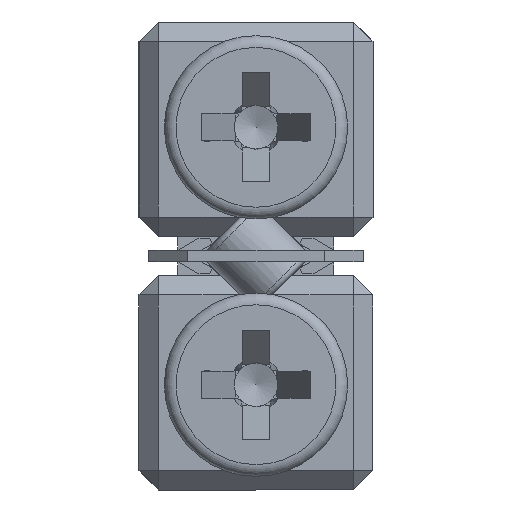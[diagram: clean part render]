
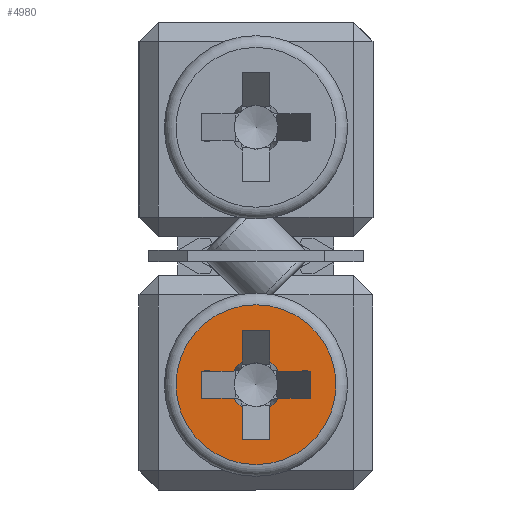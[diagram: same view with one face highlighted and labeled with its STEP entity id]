
A CAD part, left-side view. The second image highlights one B-rep face of the part: STEP entity #4980.
In plain terms, the highlighted planar face has unit normal (-1, 0, 0).
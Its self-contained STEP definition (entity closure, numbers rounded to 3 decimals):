
#151 = DIRECTION ( 'NONE',  ( 0., -1., 0. ) ) ;
#282 = FACE_OUTER_BOUND ( 'NONE', #6431, .T. ) ;
#322 = CARTESIAN_POINT ( 'NONE',  ( -54., 0., 2.7 ) ) ;
#386 = ORIENTED_EDGE ( 'NONE', *, *, #3901, .T. ) ;
#389 = VERTEX_POINT ( 'NONE', #10544 ) ;
#474 = ORIENTED_EDGE ( 'NONE', *, *, #10109, .F. ) ;
#523 = CIRCLE ( 'NONE', #12427, 0.678 ) ;
#816 = EDGE_CURVE ( 'NONE', #7248, #5158, #13938, .T. ) ;
#974 = LINE ( 'NONE', #11450, #9322 ) ;
#1057 = DIRECTION ( 'NONE',  ( -1., 0., 0. ) ) ;
#1335 = DIRECTION ( 'NONE',  ( 0., 0., 1. ) ) ;
#1416 = ORIENTED_EDGE ( 'NONE', *, *, #8297, .T. ) ;
#1425 = VERTEX_POINT ( 'NONE', #6885 ) ;
#1532 = DIRECTION ( 'NONE',  ( 1., 0., 0. ) ) ;
#1585 = DIRECTION ( 'NONE',  ( 0., 1., 0. ) ) ;
#1810 = ORIENTED_EDGE ( 'NONE', *, *, #9512, .T. ) ;
#1886 = CARTESIAN_POINT ( 'NONE',  ( -54., -0.35, 4.1 ) ) ;
#1962 = CARTESIAN_POINT ( 'NONE',  ( -54., 0.35, 2.119 ) ) ;
#2075 = VECTOR ( 'NONE', #3684, 1000. ) ;
#2076 = CARTESIAN_POINT ( 'NONE',  ( -54., -0.581, 2.35 ) ) ;
#2332 = VERTEX_POINT ( 'NONE', #7053 ) ;
#2337 = ORIENTED_EDGE ( 'NONE', *, *, #10279, .F. ) ;
#2516 = VECTOR ( 'NONE', #11118, 1000. ) ;
#2609 = DIRECTION ( 'NONE',  ( 0., -1., 0. ) ) ;
#2748 = DIRECTION ( 'NONE',  ( -1., 0., 0. ) ) ;
#2983 = CARTESIAN_POINT ( 'NONE',  ( -54., -1.4, 2.35 ) ) ;
#3027 = EDGE_CURVE ( 'NONE', #13841, #1425, #14010, .T. ) ;
#3286 = VECTOR ( 'NONE', #12839, 1000. ) ;
#3399 = VERTEX_POINT ( 'NONE', #13761 ) ;
#3571 = CARTESIAN_POINT ( 'NONE',  ( -54., 0.35, 1.3 ) ) ;
#3605 = LINE ( 'NONE', #3908, #2075 ) ;
#3640 = ORIENTED_EDGE ( 'NONE', *, *, #11639, .T. ) ;
#3684 = DIRECTION ( 'NONE',  ( 0., 0., -1. ) ) ;
#3686 = DIRECTION ( 'NONE',  ( 0., 0., 1. ) ) ;
#3760 = VERTEX_POINT ( 'NONE', #6831 ) ;
#3843 = VERTEX_POINT ( 'NONE', #1962 ) ;
#3901 = EDGE_CURVE ( 'NONE', #12799, #6830, #13260, .T. ) ;
#3908 = CARTESIAN_POINT ( 'NONE',  ( -54., 1.4, 3.05 ) ) ;
#4115 = DIRECTION ( 'NONE',  ( -1., 0., 0. ) ) ;
#4233 = EDGE_CURVE ( 'NONE', #5847, #5389, #6097, .T. ) ;
#4402 = CARTESIAN_POINT ( 'NONE',  ( -54., 0., 2.7 ) ) ;
#4425 = CARTESIAN_POINT ( 'NONE',  ( -54., -1.4, 2.35 ) ) ;
#4473 = DIRECTION ( 'NONE',  ( 0., -1., 0. ) ) ;
#4705 = CARTESIAN_POINT ( 'NONE',  ( -54., 0., 2.7 ) ) ;
#4777 = AXIS2_PLACEMENT_3D ( 'NONE', #322, #14356, #1335 ) ;
#4980 = ADVANCED_FACE ( 'NONE', ( #282, #12003 ), #9761, .F. ) ;
#5038 = CARTESIAN_POINT ( 'NONE',  ( -54., 2.35, 2.7 ) ) ;
#5158 = VERTEX_POINT ( 'NONE', #2076 ) ;
#5389 = VERTEX_POINT ( 'NONE', #13225 ) ;
#5520 = DIRECTION ( 'NONE',  ( 0., 1., 0. ) ) ;
#5656 = ORIENTED_EDGE ( 'NONE', *, *, #3027, .F. ) ;
#5847 = VERTEX_POINT ( 'NONE', #7387 ) ;
#5908 = CARTESIAN_POINT ( 'NONE',  ( -54., -0.35, 2.119 ) ) ;
#6011 = ORIENTED_EDGE ( 'NONE', *, *, #6332, .F. ) ;
#6097 = LINE ( 'NONE', #7180, #7513 ) ;
#6259 = EDGE_LOOP ( 'NONE', ( #10247, #13796, #14734, #3640, #6011, #7543, #8136, #386, #7610, #8296, #5656, #11377, #474, #1416, #2337, #1810 ) ) ;
#6332 = EDGE_CURVE ( 'NONE', #13261, #3843, #10140, .T. ) ;
#6390 = LINE ( 'NONE', #9953, #2516 ) ;
#6431 = EDGE_LOOP ( 'NONE', ( #6879 ) ) ;
#6613 = DIRECTION ( 'NONE',  ( 0., 0., -1. ) ) ;
#6726 = VECTOR ( 'NONE', #8288, 1000. ) ;
#6830 = VERTEX_POINT ( 'NONE', #9412 ) ;
#6831 = CARTESIAN_POINT ( 'NONE',  ( -54., -0.35, 3.281 ) ) ;
#6879 = ORIENTED_EDGE ( 'NONE', *, *, #11073, .T. ) ;
#6885 = CARTESIAN_POINT ( 'NONE',  ( -54., 0.35, 4.1 ) ) ;
#7053 = CARTESIAN_POINT ( 'NONE',  ( -54., 0., 0.65 ) ) ;
#7180 = CARTESIAN_POINT ( 'NONE',  ( -54., 0.35, 1.3 ) ) ;
#7248 = VERTEX_POINT ( 'NONE', #5908 ) ;
#7387 = CARTESIAN_POINT ( 'NONE',  ( -54., 0.35, 1.3 ) ) ;
#7488 = CIRCLE ( 'NONE', #8221, 2.05 ) ;
#7513 = VECTOR ( 'NONE', #2609, 1000. ) ;
#7529 = DIRECTION ( 'NONE',  ( 0., 0., 1. ) ) ;
#7543 = ORIENTED_EDGE ( 'NONE', *, *, #8103, .T. ) ;
#7610 = ORIENTED_EDGE ( 'NONE', *, *, #9442, .F. ) ;
#7824 = VECTOR ( 'NONE', #151, 1000. ) ;
#7863 = CARTESIAN_POINT ( 'NONE',  ( -54., -0.581, 3.05 ) ) ;
#7882 = LINE ( 'NONE', #15003, #13584 ) ;
#8043 = EDGE_CURVE ( 'NONE', #12799, #14181, #3605, .T. ) ;
#8103 = EDGE_CURVE ( 'NONE', #13261, #14181, #13596, .T. ) ;
#8112 = CARTESIAN_POINT ( 'NONE',  ( -54., -0.35, 4.1 ) ) ;
#8136 = ORIENTED_EDGE ( 'NONE', *, *, #8043, .F. ) ;
#8154 = CARTESIAN_POINT ( 'NONE',  ( -54., -1.4, 2.35 ) ) ;
#8221 = AXIS2_PLACEMENT_3D ( 'NONE', #4402, #12548, #8990 ) ;
#8288 = DIRECTION ( 'NONE',  ( 0., 0., 1. ) ) ;
#8296 = ORIENTED_EDGE ( 'NONE', *, *, #10942, .T. ) ;
#8297 = EDGE_CURVE ( 'NONE', #11420, #389, #974, .T. ) ;
#8310 = DIRECTION ( 'NONE',  ( 0., 0., 1. ) ) ;
#8386 = LINE ( 'NONE', #12107, #10362 ) ;
#8448 = CARTESIAN_POINT ( 'NONE',  ( -54., 1.4, 3.05 ) ) ;
#8617 = CARTESIAN_POINT ( 'NONE',  ( -54., 1.4, 3.05 ) ) ;
#8990 = DIRECTION ( 'NONE',  ( 0., 0., -1. ) ) ;
#9076 = EDGE_CURVE ( 'NONE', #13841, #3760, #14827, .T. ) ;
#9322 = VECTOR ( 'NONE', #4473, 1000. ) ;
#9412 = CARTESIAN_POINT ( 'NONE',  ( -54., 0.581, 3.05 ) ) ;
#9442 = EDGE_CURVE ( 'NONE', #3399, #6830, #13031, .T. ) ;
#9469 = CARTESIAN_POINT ( 'NONE',  ( -54., 1.4, 2.35 ) ) ;
#9512 = EDGE_CURVE ( 'NONE', #11485, #5158, #14963, .T. ) ;
#9639 = CARTESIAN_POINT ( 'NONE',  ( -54., -0.35, 4.1 ) ) ;
#9761 = PLANE ( 'NONE',  #13386 ) ;
#9953 = CARTESIAN_POINT ( 'NONE',  ( -54., -1.4, 2.35 ) ) ;
#10109 = EDGE_CURVE ( 'NONE', #11420, #3760, #523, .T. ) ;
#10140 = CIRCLE ( 'NONE', #12114, 0.678 ) ;
#10247 = ORIENTED_EDGE ( 'NONE', *, *, #816, .F. ) ;
#10279 = EDGE_CURVE ( 'NONE', #11485, #389, #6390, .T. ) ;
#10298 = CARTESIAN_POINT ( 'NONE',  ( -54., 0.581, 2.35 ) ) ;
#10319 = VECTOR ( 'NONE', #1585, 1000. ) ;
#10362 = VECTOR ( 'NONE', #8310, 1000. ) ;
#10544 = CARTESIAN_POINT ( 'NONE',  ( -54., -1.4, 3.05 ) ) ;
#10586 = VECTOR ( 'NONE', #6613, 1000. ) ;
#10617 = LINE ( 'NONE', #3571, #6726 ) ;
#10809 = AXIS2_PLACEMENT_3D ( 'NONE', #14732, #4115, #7529 ) ;
#10942 = EDGE_CURVE ( 'NONE', #3399, #1425, #10617, .T. ) ;
#11073 = EDGE_CURVE ( 'NONE', #2332, #2332, #7488, .T. ) ;
#11118 = DIRECTION ( 'NONE',  ( 0., 0., 1. ) ) ;
#11284 = DIRECTION ( 'NONE',  ( 0., 0., -1. ) ) ;
#11377 = ORIENTED_EDGE ( 'NONE', *, *, #9076, .T. ) ;
#11420 = VERTEX_POINT ( 'NONE', #7863 ) ;
#11450 = CARTESIAN_POINT ( 'NONE',  ( -54., 1.4, 3.05 ) ) ;
#11485 = VERTEX_POINT ( 'NONE', #8154 ) ;
#11639 = EDGE_CURVE ( 'NONE', #5847, #3843, #8386, .T. ) ;
#12003 = FACE_BOUND ( 'NONE', #6259, .T. ) ;
#12107 = CARTESIAN_POINT ( 'NONE',  ( -54., 0.35, 1.3 ) ) ;
#12114 = AXIS2_PLACEMENT_3D ( 'NONE', #4705, #1057, #12915 ) ;
#12115 = EDGE_CURVE ( 'NONE', #7248, #5389, #7882, .T. ) ;
#12427 = AXIS2_PLACEMENT_3D ( 'NONE', #13360, #2748, #3686 ) ;
#12548 = DIRECTION ( 'NONE',  ( -1., 0., 0. ) ) ;
#12799 = VERTEX_POINT ( 'NONE', #8617 ) ;
#12839 = DIRECTION ( 'NONE',  ( 0., 1., 0. ) ) ;
#12915 = DIRECTION ( 'NONE',  ( 0., 0., 1. ) ) ;
#13031 = CIRCLE ( 'NONE', #10809, 0.678 ) ;
#13225 = CARTESIAN_POINT ( 'NONE',  ( -54., -0.35, 1.3 ) ) ;
#13260 = LINE ( 'NONE', #8448, #7824 ) ;
#13261 = VERTEX_POINT ( 'NONE', #10298 ) ;
#13360 = CARTESIAN_POINT ( 'NONE',  ( -54., 0., 2.7 ) ) ;
#13386 = AXIS2_PLACEMENT_3D ( 'NONE', #5038, #1532, #14480 ) ;
#13584 = VECTOR ( 'NONE', #11284, 1000. ) ;
#13596 = LINE ( 'NONE', #2983, #10319 ) ;
#13761 = CARTESIAN_POINT ( 'NONE',  ( -54., 0.35, 3.281 ) ) ;
#13796 = ORIENTED_EDGE ( 'NONE', *, *, #12115, .T. ) ;
#13841 = VERTEX_POINT ( 'NONE', #9639 ) ;
#13938 = CIRCLE ( 'NONE', #4777, 0.678 ) ;
#14010 = LINE ( 'NONE', #8112, #3286 ) ;
#14181 = VERTEX_POINT ( 'NONE', #9469 ) ;
#14268 = VECTOR ( 'NONE', #5520, 1000. ) ;
#14356 = DIRECTION ( 'NONE',  ( -1., 0., 0. ) ) ;
#14480 = DIRECTION ( 'NONE',  ( 0., 0., -1. ) ) ;
#14732 = CARTESIAN_POINT ( 'NONE',  ( -54., 0., 2.7 ) ) ;
#14734 = ORIENTED_EDGE ( 'NONE', *, *, #4233, .F. ) ;
#14827 = LINE ( 'NONE', #1886, #10586 ) ;
#14963 = LINE ( 'NONE', #4425, #14268 ) ;
#15003 = CARTESIAN_POINT ( 'NONE',  ( -54., -0.35, 4.1 ) ) ;
